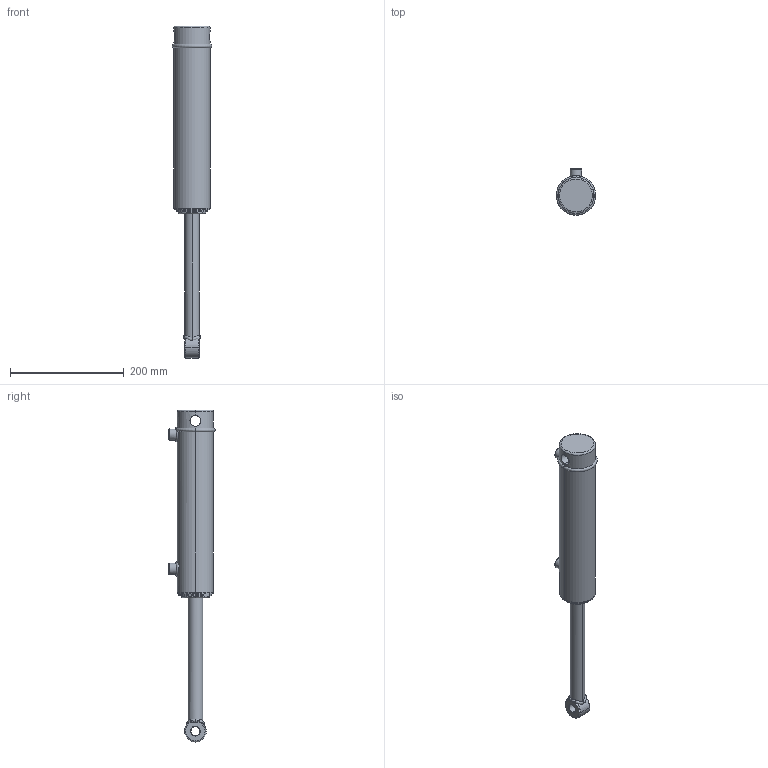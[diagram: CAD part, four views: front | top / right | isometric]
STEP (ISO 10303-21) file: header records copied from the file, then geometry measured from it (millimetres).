
FILE_DESCRIPTION (( 'STEP AP203' ), '1' );
FILE_NAME ('SB-C200100X203 (8) extended.STEP', '2014-12-01T23:40:36', ( '' ), ( '' ), 'SwSTEP 2.0', 'SolidWorks 2014', '' );
FILE_SCHEMA (( 'CONFIG_CONTROL_DESIGN' ));
Length unit declared in the file: millimetre
Products named in the file (5): SB-C2 8 SPARE; SB-C200100X203 (8) extended; SB-C200100X203 (8) BODY; 2 inch circlip
Assembly tree (4 placements, depth 3):
  SB-C200100X203 (8) extended
    SB-C200100X203 (8) BODY
    2 inch circlip
    SB-C2 8 SPARE
      SB-C2 8 SPARE
Bounding box: 69.5 x 81.5 x 583 mm (x, y, z)
Volume: 1069283.2 mm3; surface area: 130779.9 mm2
Topology: 3 solids, 3 shells, 130 faces, 324 edges, 203 vertices
Faces by surface type: cylinder 51, bspline 25, plane 25, torus 21, cone 8
Entity records: 9343 total; most frequent: CARTESIAN_POINT 5899, ORIENTED_EDGE 640, DIRECTION 595, EDGE_CURVE 320, AXIS2_PLACEMENT_3D 263, VERTEX_POINT 203, CIRCLE 150, EDGE_LOOP 149
